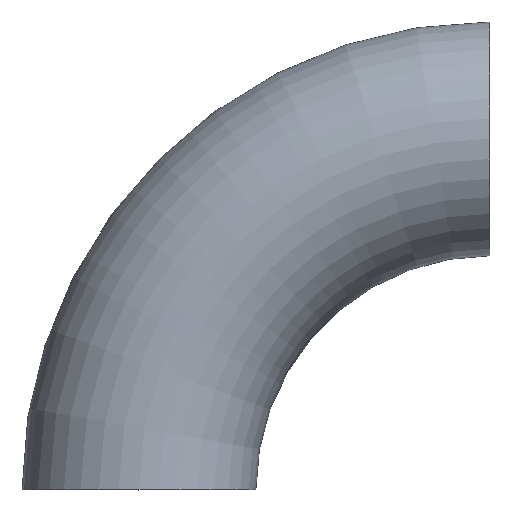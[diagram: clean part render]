
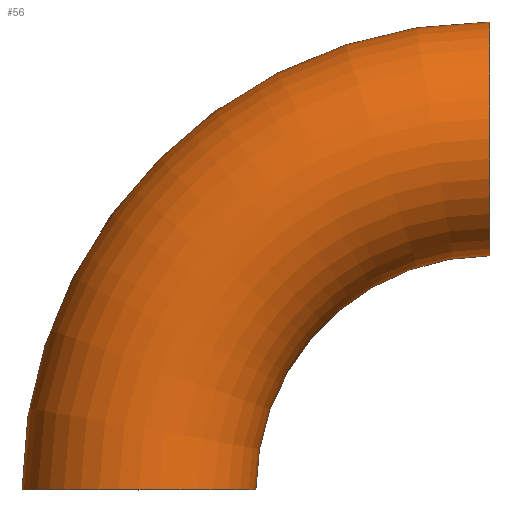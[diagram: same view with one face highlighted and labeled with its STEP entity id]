
A CAD part, top view. The second image highlights one B-rep face of the part: STEP entity #56.
In plain terms, the highlighted toroidal (fillet/blend) face has major radius 610 mm and minor radius 203.2 mm.
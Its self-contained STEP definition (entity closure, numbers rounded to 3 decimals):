
#10 = DIRECTION ( 'NONE',  ( 1., 0., 0. ) ) ;
#16 = CARTESIAN_POINT ( 'NONE',  ( 610., 0., 0. ) ) ;
#28 = DIRECTION ( 'NONE',  ( 0., 0., 1. ) ) ;
#30 = DIRECTION ( 'NONE',  ( 0., 0., 1. ) ) ;
#31 = CARTESIAN_POINT ( 'NONE',  ( -203.2, 0., 0. ) ) ;
#37 = AXIS2_PLACEMENT_3D ( 'NONE', #16, #28, #193 ) ;
#44 = CARTESIAN_POINT ( 'NONE',  ( 610., 0., 0. ) ) ;
#47 = DIRECTION ( 'NONE',  ( 1., 0., 0. ) ) ;
#49 = DIRECTION ( 'NONE',  ( 0., 0., 1. ) ) ;
#55 = EDGE_CURVE ( 'NONE', #61, #160, #195, .T. ) ;
#56 = ADVANCED_FACE ( 'NONE', ( #124 ), #222, .T. ) ;
#61 = VERTEX_POINT ( 'NONE', #166 ) ;
#73 = ORIENTED_EDGE ( 'NONE', *, *, #201, .T. ) ;
#83 = CIRCLE ( 'NONE', #148, 203.2 ) ;
#95 = AXIS2_PLACEMENT_3D ( 'NONE', #192, #10, #189 ) ;
#98 = AXIS2_PLACEMENT_3D ( 'NONE', #44, #30, #47 ) ;
#121 = EDGE_CURVE ( 'NONE', #160, #185, #172, .T. ) ;
#124 = FACE_OUTER_BOUND ( 'NONE', #164, .T. ) ;
#130 = CARTESIAN_POINT ( 'NONE',  ( 610., 406.8, 0. ) ) ;
#131 = DIRECTION ( 'NONE',  ( 1., 0., 0. ) ) ;
#147 = ORIENTED_EDGE ( 'NONE', *, *, #55, .F. ) ;
#148 = AXIS2_PLACEMENT_3D ( 'NONE', #169, #247, #49 ) ;
#160 = VERTEX_POINT ( 'NONE', #130 ) ;
#164 = EDGE_LOOP ( 'NONE', ( #147, #173, #73, #211 ) ) ;
#165 = CARTESIAN_POINT ( 'NONE',  ( 203.2, 0., 0. ) ) ;
#166 = CARTESIAN_POINT ( 'NONE',  ( 610., 813.2, 0. ) ) ;
#168 = CARTESIAN_POINT ( 'NONE',  ( 610., 0., 0. ) ) ;
#169 = CARTESIAN_POINT ( 'NONE',  ( 0., 0., 0. ) ) ;
#172 = CIRCLE ( 'NONE', #37, 406.8 ) ;
#173 = ORIENTED_EDGE ( 'NONE', *, *, #194, .T. ) ;
#185 = VERTEX_POINT ( 'NONE', #165 ) ;
#189 = DIRECTION ( 'NONE',  ( 0., 0., 1. ) ) ;
#192 = CARTESIAN_POINT ( 'NONE',  ( 610., 610., 0. ) ) ;
#193 = DIRECTION ( 'NONE',  ( 1., 0., 0. ) ) ;
#194 = EDGE_CURVE ( 'NONE', #61, #231, #218, .T. ) ;
#195 = CIRCLE ( 'NONE', #95, 203.2 ) ;
#201 = EDGE_CURVE ( 'NONE', #231, #185, #83, .T. ) ;
#211 = ORIENTED_EDGE ( 'NONE', *, *, #121, .F. ) ;
#218 = CIRCLE ( 'NONE', #234, 813.2 ) ;
#222 = TOROIDAL_SURFACE ( 'NONE', #98, 610., 203.2 ) ;
#231 = VERTEX_POINT ( 'NONE', #31 ) ;
#234 = AXIS2_PLACEMENT_3D ( 'NONE', #168, #244, #131 ) ;
#244 = DIRECTION ( 'NONE',  ( 0., 0., 1. ) ) ;
#247 = DIRECTION ( 'NONE',  ( 0., 1., 0. ) ) ;
